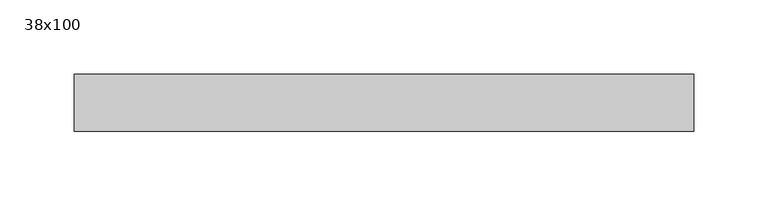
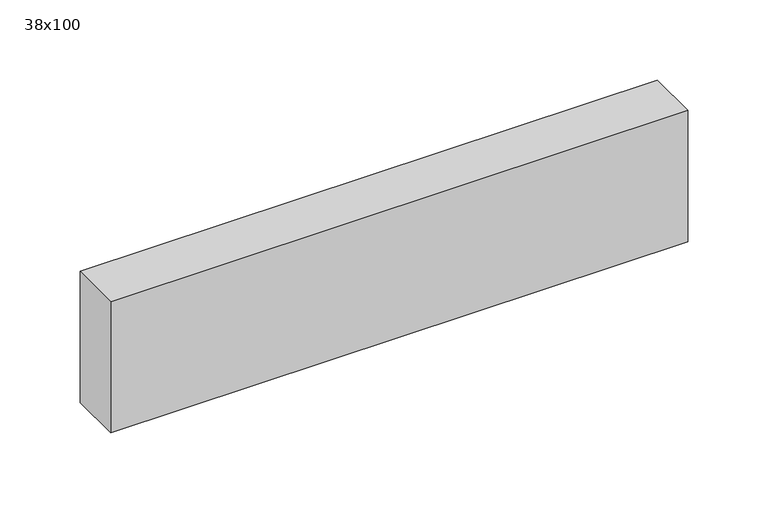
"""IFC4 building model written with IfcOpenShell, lengths in millimetres: beam geometry, Poutre - Bois de construction de dimensions courantes : 38x100."""

from ifc_helpers import new_model, si_unit, frame, origin, place, context, project, spatial, polyline, outline, extrude, source, transform, mapped, element, save


def beam_38x100_e3528915(model_context):
    return source(origin(), model_context, "Body", "SweptSolid", [
        extrude(outline(polyline([(128.0, 19.05), (128.0, -19.05), (-288.0, -19.05), (-288.0, 19.05), (128.0, 19.05)])), frame((0.0, 0.0, -50.0), z_axis=(0.0, 0.0, 1.0), x_axis=(1.0, 0.0, 0.0)), (0.0, 0.0, 1.0), 100.0),
    ])


if __name__ == "__main__":
    model = new_model("IFC4")
    model_context = context("Model", 3, world=origin())
    ifc_project = project(units=[si_unit("LENGTHUNIT", "METRE", prefix="MILLI")], contexts=[model_context])
    site = spatial("IfcSite", under=ifc_project)
    building = spatial("IfcBuilding", under=site)
    placement = place(None, origin())
    beam_38x100_shape = beam_38x100_e3528915(model_context)
    element("IfcBeam", 1, ObjectType="Poutre - Bois de construction de dimensions courantes : 38x100", at=placement, inside=building, context=model_context, shape_type="MappedRepresentation", body=[
        mapped(beam_38x100_shape, transform((0.0, 0.0, 0.0), x_axis=(1.0, 0.0, 0.0), y_axis=(0.0, 1.0, 0.0), z_axis=(0.0, 0.0, 1.0))),
    ])
    save(model, "model.ifc")
